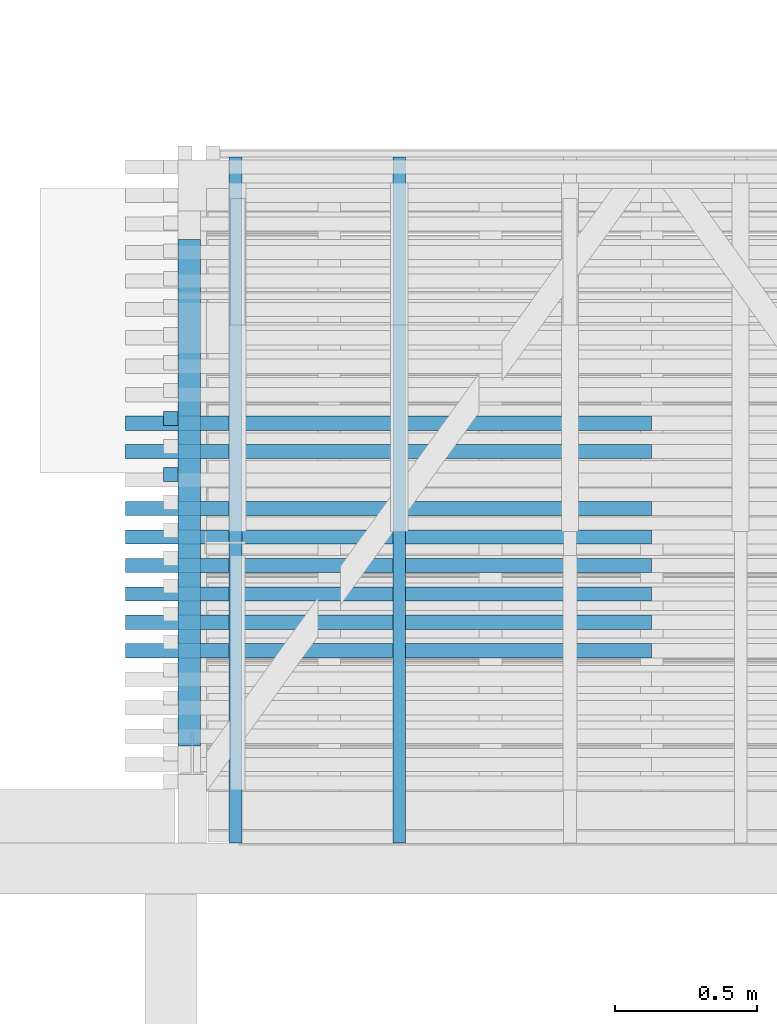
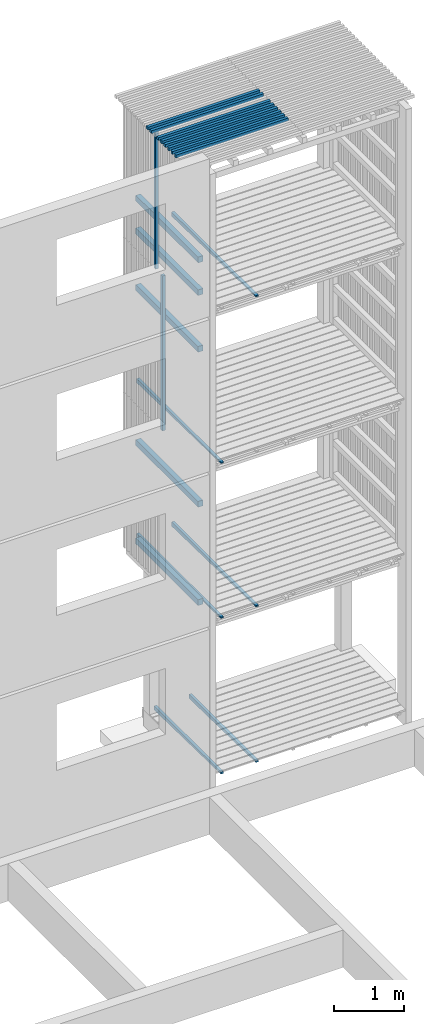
# One storey, part 115 of 182: 21 beams.
"""IFC2X3 building model written with IfcOpenShell, lengths in metres."""

from ifc_helpers import new_model, si_unit, frame, origin, place, context, project, spatial, faceted_brep, element, save


model = new_model("IFC2X3")

# Units and contexts
model_context = context("Model", 3, precision=1e-06, world=origin())
ifc_project = project(units=[si_unit("LENGTHUNIT", "METRE"), si_unit("PLANEANGLEUNIT", "RADIAN")], contexts=[model_context])

# Site, building, storey
site = spatial("IfcSite", under=ifc_project, CompositionType="ELEMENT")
building = spatial("IfcBuilding", under=site, CompositionType="ELEMENT")
storey = spatial("IfcBuildingStorey", under=building, Name="vs", CompositionType="ELEMENT", Elevation=-0.85)

# Beams
placement = place(None, origin())
beam_1_placement = place(placement, frame((53.22749999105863, 4.870077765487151, 5.384400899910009), z_axis=(0.0, 0.0, 1.0), x_axis=(0.0, 1.0, 0.0)))
element("IfcBeam", 1, at=beam_1_placement, inside=storey, Name="Calage", context=model_context, shape_type="Brep", body=[
    faceted_brep([(2.41000000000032, -0.022499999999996, -0.035599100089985), (0.0, -0.022499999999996, 0.012600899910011), (0.0, 0.022500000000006, 0.012600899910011), (2.41000000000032, 0.022500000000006, -0.035599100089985), (0.0, 0.022500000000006, 0.035599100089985), (0.0, 0.022500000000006, 0.012600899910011), (0.0, -0.022499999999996, 0.012600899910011), (0.0, -0.022499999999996, 0.035599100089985), (2.41000000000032, 0.022500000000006, -0.035599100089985), (0.0, 0.022500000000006, 0.012600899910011), (0.0, 0.022500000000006, 0.035599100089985), (2.41000000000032, 0.022500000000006, 0.035599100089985), (2.41000000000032, -0.022499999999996, 0.035599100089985), (0.0, -0.022499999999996, 0.035599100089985), (0.0, -0.022499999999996, 0.012600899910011), (2.41000000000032, -0.022499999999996, -0.035599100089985), (2.41000000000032, 0.022500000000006, 0.035599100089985), (0.0, 0.022500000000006, 0.035599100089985), (0.0, -0.022499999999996, 0.035599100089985), (2.41000000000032, -0.022499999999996, 0.035599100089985), (2.41000000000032, 0.022500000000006, -0.035599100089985), (2.41000000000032, 0.022500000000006, 0.035599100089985), (2.41000000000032, -0.022499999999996, 0.035599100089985), (2.41000000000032, -0.022499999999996, -0.035599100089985)], [[[0, 1, 2, 3]], [[4, 5, 6, 7]], [[8, 9, 10, 11]], [[12, 13, 14, 15]], [[16, 17, 18, 19]], [[20, 21, 22, 23]]]),
])
beam_2_placement = place(placement, frame((54.689999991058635, 5.945077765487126, 10.47999999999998), z_axis=(0.0, 0.0, 1.0), x_axis=(-1.0, -2e-15, 0.0)))
element("IfcBeam", 2, at=beam_2_placement, inside=storey, Name="Bardage", context=model_context, shape_type="Brep", body=[
    faceted_brep([(1.850000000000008, -0.025000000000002, -0.024999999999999), (1.850000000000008, -0.025000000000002, 0.025000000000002), (-1e-15, -0.024999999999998, 0.025000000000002), (-1e-15, -0.024999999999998, -0.024999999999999), (1.850000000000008, -0.025000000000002, 0.025000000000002), (1.850000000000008, -0.025000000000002, -0.024999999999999), (1.850000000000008, 0.024999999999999, -0.024999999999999), (1.850000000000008, 0.024999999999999, 0.025000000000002), (1.850000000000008, 0.024999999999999, -0.024999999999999), (1.850000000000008, -0.025000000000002, -0.024999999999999), (-1e-15, -0.024999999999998, -0.024999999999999), (0.0, 0.025000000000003, -0.024999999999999), (1.850000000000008, 0.024999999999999, 0.025000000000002), (1.850000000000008, 0.024999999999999, -0.024999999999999), (0.0, 0.025000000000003, -0.024999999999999), (0.0, 0.025000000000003, 0.025000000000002), (-1e-15, -0.024999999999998, 0.025000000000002), (1.850000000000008, -0.025000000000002, 0.025000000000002), (1.850000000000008, 0.024999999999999, 0.025000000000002), (0.0, 0.025000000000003, 0.025000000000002), (-1e-15, -0.024999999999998, -0.024999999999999), (-1e-15, -0.024999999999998, 0.025000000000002), (0.0, 0.025000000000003, 0.025000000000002), (0.0, 0.025000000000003, -0.024999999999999)], [[[0, 1, 2, 3]], [[4, 5, 6, 7]], [[8, 9, 10, 11]], [[12, 13, 14, 15]], [[16, 17, 18, 19]], [[20, 21, 22, 23]]]),
])
beam_3_placement = place(placement, frame((53.80299999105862, 4.870077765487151, -0.015599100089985), z_axis=(0.0, 0.0, 1.0), x_axis=(0.0, 1.0, 0.0)))
element("IfcBeam", 3, at=beam_3_placement, inside=storey, Name="Calage", context=model_context, shape_type="Brep", body=[
    faceted_brep([(0.0, 0.022499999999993, 0.002600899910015), (1.91000000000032, 0.022499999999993, -0.035599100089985), (1.91000000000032, -0.022500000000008, -0.035599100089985), (0.0, -0.022500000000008, 0.002600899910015), (0.0, -0.022500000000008, 0.035599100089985), (0.0, 0.022499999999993, 0.035599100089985), (0.0, 0.022499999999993, 0.002600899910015), (0.0, -0.022500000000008, 0.002600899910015), (0.0, 0.022499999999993, 0.035599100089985), (0.0, -0.022500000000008, 0.035599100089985), (1.91000000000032, -0.022500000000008, 0.035599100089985), (1.91000000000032, 0.022499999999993, 0.035599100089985), (0.0, 0.022499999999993, 0.002600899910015), (0.0, 0.022499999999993, 0.035599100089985), (1.91000000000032, 0.022499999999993, 0.035599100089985), (1.91000000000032, 0.022499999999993, -0.035599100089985), (1.91000000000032, 0.022499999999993, -0.035599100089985), (1.91000000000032, 0.022499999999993, 0.035599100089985), (1.91000000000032, -0.022500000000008, 0.035599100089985), (1.91000000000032, -0.022500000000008, -0.035599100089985), (1.91000000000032, -0.022500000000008, -0.035599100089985), (1.91000000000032, -0.022500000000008, 0.035599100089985), (0.0, -0.022500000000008, 0.035599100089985), (0.0, -0.022500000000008, 0.002600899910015)], [[[0, 1, 2, 3]], [[4, 5, 6, 7]], [[8, 9, 10, 11]], [[12, 13, 14, 15]], [[16, 17, 18, 19]], [[20, 21, 22, 23]]]),
])
beam_4_placement = place(placement, frame((53.80299999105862, 4.870077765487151, 2.684400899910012), z_axis=(0.0, 0.0, 1.0), x_axis=(0.0, 1.0, 0.0)))
element("IfcBeam", 4, at=beam_4_placement, inside=storey, Name="Calage", context=model_context, shape_type="Brep", body=[
    faceted_brep([(2.41000000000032, -0.022500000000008, -0.035599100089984), (0.0, -0.022500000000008, 0.012600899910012), (0.0, 0.022499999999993, 0.012600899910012), (2.41000000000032, 0.022499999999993, -0.035599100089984), (0.0, 0.022499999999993, 0.035599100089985), (0.0, 0.022499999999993, 0.012600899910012), (0.0, -0.022500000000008, 0.012600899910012), (0.0, -0.022500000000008, 0.035599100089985), (2.41000000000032, 0.022499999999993, -0.035599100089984), (0.0, 0.022499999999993, 0.012600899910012), (0.0, 0.022499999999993, 0.035599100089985), (2.41000000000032, 0.022499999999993, 0.035599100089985), (2.41000000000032, -0.022500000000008, 0.035599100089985), (0.0, -0.022500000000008, 0.035599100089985), (0.0, -0.022500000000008, 0.012600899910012), (2.41000000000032, -0.022500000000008, -0.035599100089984), (2.41000000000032, 0.022499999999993, 0.035599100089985), (0.0, 0.022499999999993, 0.035599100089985), (0.0, -0.022500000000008, 0.035599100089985), (2.41000000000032, -0.022500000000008, 0.035599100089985), (2.41000000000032, 0.022499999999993, -0.035599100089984), (2.41000000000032, 0.022499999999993, 0.035599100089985), (2.41000000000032, -0.022500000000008, 0.035599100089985), (2.41000000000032, -0.022500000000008, -0.035599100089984)], [[[0, 1, 2, 3]], [[4, 5, 6, 7]], [[8, 9, 10, 11]], [[12, 13, 14, 15]], [[16, 17, 18, 19]], [[20, 21, 22, 23]]]),
])
beam_5_placement = place(placement, frame((54.689999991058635, 5.545077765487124, 10.47999999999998), z_axis=(0.0, 0.0, 1.0), x_axis=(-1.0, 0.0, 0.0)))
element("IfcBeam", 5, at=beam_5_placement, inside=storey, Name="Bardage", context=model_context, shape_type="Brep", body=[
    faceted_brep([(1.850000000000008, -0.024999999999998, -0.024999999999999), (1.850000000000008, -0.024999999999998, 0.025000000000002), (-1e-15, -0.025000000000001, 0.025000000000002), (-1e-15, -0.025000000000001, -0.024999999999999), (1.850000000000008, -0.024999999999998, 0.025000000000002), (1.850000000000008, -0.024999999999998, -0.024999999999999), (1.850000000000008, 0.024999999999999, -0.024999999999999), (1.850000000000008, 0.024999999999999, 0.025000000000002), (1.850000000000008, 0.024999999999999, -0.024999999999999), (1.850000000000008, -0.024999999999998, -0.024999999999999), (-1e-15, -0.025000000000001, -0.024999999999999), (-1e-15, 0.024999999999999, -0.024999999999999), (1.850000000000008, 0.024999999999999, 0.025000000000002), (1.850000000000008, 0.024999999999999, -0.024999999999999), (-1e-15, 0.024999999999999, -0.024999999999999), (-1e-15, 0.024999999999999, 0.025000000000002), (-1e-15, -0.025000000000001, 0.025000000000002), (1.850000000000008, -0.024999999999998, 0.025000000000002), (1.850000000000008, 0.024999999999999, 0.025000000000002), (-1e-15, 0.024999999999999, 0.025000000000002), (-1e-15, -0.025000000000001, -0.024999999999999), (-1e-15, -0.025000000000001, 0.025000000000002), (-1e-15, 0.024999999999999, 0.025000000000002), (-1e-15, 0.024999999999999, -0.024999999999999)], [[[0, 1, 2, 3]], [[4, 5, 6, 7]], [[8, 9, 10, 11]], [[12, 13, 14, 15]], [[16, 17, 18, 19]], [[20, 21, 22, 23]]]),
])
beam_6_placement = place(placement, frame((53.22749999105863, 4.870077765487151, 2.684400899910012), z_axis=(0.0, 0.0, 1.0), x_axis=(0.0, 1.0, 0.0)))
element("IfcBeam", 6, at=beam_6_placement, inside=storey, Name="Calage", context=model_context, shape_type="Brep", body=[
    faceted_brep([(2.41000000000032, -0.022499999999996, -0.035599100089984), (0.0, -0.022499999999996, 0.012600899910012), (0.0, 0.022500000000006, 0.012600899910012), (2.41000000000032, 0.022500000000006, -0.035599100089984), (0.0, 0.022500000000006, 0.035599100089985), (0.0, 0.022500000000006, 0.012600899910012), (0.0, -0.022499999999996, 0.012600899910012), (0.0, -0.022499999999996, 0.035599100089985), (2.41000000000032, 0.022500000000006, -0.035599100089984), (0.0, 0.022500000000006, 0.012600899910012), (0.0, 0.022500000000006, 0.035599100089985), (2.41000000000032, 0.022500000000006, 0.035599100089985), (2.41000000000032, -0.022499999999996, 0.035599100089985), (0.0, -0.022499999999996, 0.035599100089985), (0.0, -0.022499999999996, 0.012600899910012), (2.41000000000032, -0.022499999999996, -0.035599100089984), (2.41000000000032, 0.022500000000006, 0.035599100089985), (0.0, 0.022500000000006, 0.035599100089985), (0.0, -0.022499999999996, 0.035599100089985), (2.41000000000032, -0.022499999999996, 0.035599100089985), (2.41000000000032, 0.022500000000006, -0.035599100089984), (2.41000000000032, 0.022500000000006, 0.035599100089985), (2.41000000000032, -0.022499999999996, 0.035599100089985), (2.41000000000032, -0.022499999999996, -0.035599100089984)], [[[0, 1, 2, 3]], [[4, 5, 6, 7]], [[8, 9, 10, 11]], [[12, 13, 14, 15]], [[16, 17, 18, 19]], [[20, 21, 22, 23]]]),
])
beam_7_placement = place(placement, frame((54.689999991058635, 6.345077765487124, 10.47999999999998), z_axis=(0.0, 0.0, 1.0), x_axis=(-1.0, 0.0, 0.0)))
element("IfcBeam", 7, at=beam_7_placement, inside=storey, Name="Bardage", context=model_context, shape_type="Brep", body=[
    faceted_brep([(1.850000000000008, -0.025000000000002, -0.024999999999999), (1.850000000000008, -0.025000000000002, 0.025000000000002), (-1e-15, -0.025000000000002, 0.025000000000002), (-1e-15, -0.025000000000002, -0.024999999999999), (1.850000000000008, -0.025000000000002, 0.025000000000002), (1.850000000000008, -0.025000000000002, -0.024999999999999), (1.850000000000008, 0.025000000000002, -0.024999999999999), (1.850000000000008, 0.025000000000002, 0.025000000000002), (1.850000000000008, 0.025000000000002, -0.024999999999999), (1.850000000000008, -0.025000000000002, -0.024999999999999), (-1e-15, -0.025000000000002, -0.024999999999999), (-1e-15, 0.024999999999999, -0.024999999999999), (1.850000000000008, 0.025000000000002, 0.025000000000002), (1.850000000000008, 0.025000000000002, -0.024999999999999), (-1e-15, 0.024999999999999, -0.024999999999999), (-1e-15, 0.024999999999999, 0.025000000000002), (-1e-15, -0.025000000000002, 0.025000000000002), (1.850000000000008, -0.025000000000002, 0.025000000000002), (1.850000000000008, 0.025000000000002, 0.025000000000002), (-1e-15, 0.024999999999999, 0.025000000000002), (-1e-15, -0.025000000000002, -0.024999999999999), (-1e-15, -0.025000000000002, 0.025000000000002), (-1e-15, 0.024999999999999, 0.025000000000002), (-1e-15, 0.024999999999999, -0.024999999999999)], [[[0, 1, 2, 3]], [[4, 5, 6, 7]], [[8, 9, 10, 11]], [[12, 13, 14, 15]], [[16, 17, 18, 19]], [[20, 21, 22, 23]]]),
])
beam_8_placement = place(placement, frame((53.80299999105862, 4.870077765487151, 8.084400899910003), z_axis=(0.0, 0.0, 1.0), x_axis=(0.0, 1.0, 0.0)))
element("IfcBeam", 8, at=beam_8_placement, inside=storey, Name="Calage", context=model_context, shape_type="Brep", body=[
    faceted_brep([(2.41000000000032, -0.022500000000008, -0.035599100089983), (0.0, -0.022500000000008, 0.012600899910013), (0.0, 0.022499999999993, 0.012600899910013), (2.41000000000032, 0.022499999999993, -0.035599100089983), (0.0, 0.022499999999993, 0.035599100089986), (0.0, 0.022499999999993, 0.012600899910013), (0.0, -0.022500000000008, 0.012600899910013), (0.0, -0.022500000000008, 0.035599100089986), (2.41000000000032, 0.022499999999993, -0.035599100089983), (0.0, 0.022499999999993, 0.012600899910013), (0.0, 0.022499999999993, 0.035599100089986), (2.41000000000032, 0.022499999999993, 0.035599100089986), (2.41000000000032, -0.022500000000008, 0.035599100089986), (0.0, -0.022500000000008, 0.035599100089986), (0.0, -0.022500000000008, 0.012600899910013), (2.41000000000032, -0.022500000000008, -0.035599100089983), (2.41000000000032, 0.022499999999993, 0.035599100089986), (0.0, 0.022499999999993, 0.035599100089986), (0.0, -0.022500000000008, 0.035599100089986), (2.41000000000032, -0.022500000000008, 0.035599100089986), (2.41000000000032, 0.022499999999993, -0.035599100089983), (2.41000000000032, 0.022499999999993, 0.035599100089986), (2.41000000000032, -0.022500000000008, 0.035599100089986), (2.41000000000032, -0.022500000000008, -0.035599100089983)], [[[0, 1, 2, 3]], [[4, 5, 6, 7]], [[8, 9, 10, 11]], [[12, 13, 14, 15]], [[16, 17, 18, 19]], [[20, 21, 22, 23]]]),
])
beam_9_placement = place(placement, frame((53.22749999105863, 4.870077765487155, -0.015599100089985), z_axis=(0.0, 0.0, 1.0), x_axis=(0.0, 1.0, 0.0)))
element("IfcBeam", 9, at=beam_9_placement, inside=storey, Name="Calage", context=model_context, shape_type="Brep", body=[
    faceted_brep([(0.0, 0.022500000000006, 0.002600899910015), (1.910000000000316, 0.022500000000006, -0.035599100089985), (1.910000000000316, -0.022499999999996, -0.035599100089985), (0.0, -0.022499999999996, 0.002600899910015), (0.0, -0.022499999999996, 0.035599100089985), (0.0, 0.022500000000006, 0.035599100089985), (0.0, 0.022500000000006, 0.002600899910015), (0.0, -0.022499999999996, 0.002600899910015), (0.0, 0.022500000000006, 0.035599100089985), (0.0, -0.022499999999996, 0.035599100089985), (1.910000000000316, -0.022499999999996, 0.035599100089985), (1.910000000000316, 0.022500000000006, 0.035599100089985), (0.0, 0.022500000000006, 0.002600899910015), (0.0, 0.022500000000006, 0.035599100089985), (1.910000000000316, 0.022500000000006, 0.035599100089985), (1.910000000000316, 0.022500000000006, -0.035599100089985), (1.910000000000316, 0.022500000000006, -0.035599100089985), (1.910000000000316, 0.022500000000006, 0.035599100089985), (1.910000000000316, -0.022499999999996, 0.035599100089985), (1.910000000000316, -0.022499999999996, -0.035599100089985), (1.910000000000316, -0.022499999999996, -0.035599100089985), (1.910000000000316, -0.022499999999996, 0.035599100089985), (0.0, -0.022499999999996, 0.035599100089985), (0.0, -0.022499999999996, 0.002600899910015)], [[[0, 1, 2, 3]], [[4, 5, 6, 7]], [[8, 9, 10, 11]], [[12, 13, 14, 15]], [[16, 17, 18, 19]], [[20, 21, 22, 23]]]),
])
beam_10_placement = place(placement, frame((54.689999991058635, 6.245077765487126, 10.47999999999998), z_axis=(0.0, 0.0, 1.0), x_axis=(-1.0, -2e-15, 0.0)))
element("IfcBeam", 10, at=beam_10_placement, inside=storey, Name="Bardage", context=model_context, shape_type="Brep", body=[
    faceted_brep([(1.850000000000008, -0.025000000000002, -0.024999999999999), (1.850000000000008, -0.025000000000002, 0.025000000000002), (-1e-15, -0.024999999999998, 0.025000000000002), (-1e-15, -0.024999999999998, -0.024999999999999), (1.850000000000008, -0.025000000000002, 0.025000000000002), (1.850000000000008, -0.025000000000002, -0.024999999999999), (1.850000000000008, 0.024999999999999, -0.024999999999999), (1.850000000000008, 0.024999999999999, 0.025000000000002), (1.850000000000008, 0.024999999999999, -0.024999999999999), (1.850000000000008, -0.025000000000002, -0.024999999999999), (-1e-15, -0.024999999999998, -0.024999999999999), (-1e-15, 0.025000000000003, -0.024999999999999), (1.850000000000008, 0.024999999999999, 0.025000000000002), (1.850000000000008, 0.024999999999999, -0.024999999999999), (-1e-15, 0.025000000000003, -0.024999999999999), (-1e-15, 0.025000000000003, 0.025000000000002), (-1e-15, -0.024999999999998, 0.025000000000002), (1.850000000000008, -0.025000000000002, 0.025000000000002), (1.850000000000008, 0.024999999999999, 0.025000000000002), (-1e-15, 0.025000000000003, 0.025000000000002), (-1e-15, -0.024999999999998, -0.024999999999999), (-1e-15, -0.024999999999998, 0.025000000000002), (-1e-15, 0.025000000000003, 0.025000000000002), (-1e-15, 0.025000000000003, -0.024999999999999)], [[[0, 1, 2, 3]], [[4, 5, 6, 7]], [[8, 9, 10, 11]], [[12, 13, 14, 15]], [[16, 17, 18, 19]], [[20, 21, 22, 23]]]),
])
beam_11_placement = place(placement, frame((54.689999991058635, 5.645077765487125, 10.47999999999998), z_axis=(0.0, 0.0, 1.0), x_axis=(-1.0, 0.0, 0.0)))
element("IfcBeam", 11, at=beam_11_placement, inside=storey, Name="Bardage", context=model_context, shape_type="Brep", body=[
    faceted_brep([(1.850000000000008, -0.024999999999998, -0.024999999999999), (1.850000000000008, -0.024999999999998, 0.025000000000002), (-1e-15, -0.024999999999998, 0.025000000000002), (-1e-15, -0.024999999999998, -0.024999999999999), (1.850000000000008, -0.024999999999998, 0.025000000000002), (1.850000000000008, -0.024999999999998, -0.024999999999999), (1.850000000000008, 0.024999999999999, -0.024999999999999), (1.850000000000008, 0.024999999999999, 0.025000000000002), (1.850000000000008, 0.024999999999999, -0.024999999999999), (1.850000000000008, -0.024999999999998, -0.024999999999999), (-1e-15, -0.024999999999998, -0.024999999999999), (-1e-15, 0.024999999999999, -0.024999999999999), (1.850000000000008, 0.024999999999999, 0.025000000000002), (1.850000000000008, 0.024999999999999, -0.024999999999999), (-1e-15, 0.024999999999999, -0.024999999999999), (-1e-15, 0.024999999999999, 0.025000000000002), (-1e-15, -0.024999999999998, 0.025000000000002), (1.850000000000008, -0.024999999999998, 0.025000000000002), (1.850000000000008, 0.024999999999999, 0.025000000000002), (-1e-15, 0.024999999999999, 0.025000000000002), (-1e-15, -0.024999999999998, -0.024999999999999), (-1e-15, -0.024999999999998, 0.025000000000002), (-1e-15, 0.024999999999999, 0.025000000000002), (-1e-15, 0.024999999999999, -0.024999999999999)], [[[0, 1, 2, 3]], [[4, 5, 6, 7]], [[8, 9, 10, 11]], [[12, 13, 14, 15]], [[16, 17, 18, 19]], [[20, 21, 22, 23]]]),
])
beam_12_placement = place(placement, frame((54.689999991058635, 5.845077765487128, 10.47999999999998), z_axis=(0.0, 0.0, 1.0), x_axis=(-1.0, -2e-15, 0.0)))
element("IfcBeam", 12, at=beam_12_placement, inside=storey, Name="Bardage", context=model_context, shape_type="Brep", body=[
    faceted_brep([(1.850000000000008, -0.025000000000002, -0.024999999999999), (1.850000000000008, -0.025000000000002, 0.025000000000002), (-1e-15, -0.024999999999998, 0.025000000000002), (-1e-15, -0.024999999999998, -0.024999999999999), (1.850000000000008, -0.025000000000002, 0.025000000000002), (1.850000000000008, -0.025000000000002, -0.024999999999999), (1.850000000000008, 0.025000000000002, -0.024999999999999), (1.850000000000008, 0.025000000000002, 0.025000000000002), (1.850000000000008, 0.025000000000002, -0.024999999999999), (1.850000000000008, -0.025000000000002, -0.024999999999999), (-1e-15, -0.024999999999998, -0.024999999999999), (-1e-15, 0.025000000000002, -0.024999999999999), (1.850000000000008, 0.025000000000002, 0.025000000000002), (1.850000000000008, 0.025000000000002, -0.024999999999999), (-1e-15, 0.025000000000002, -0.024999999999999), (-1e-15, 0.025000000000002, 0.025000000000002), (-1e-15, -0.024999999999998, 0.025000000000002), (1.850000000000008, -0.025000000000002, 0.025000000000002), (1.850000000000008, 0.025000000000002, 0.025000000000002), (-1e-15, 0.025000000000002, 0.025000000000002), (-1e-15, -0.024999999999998, -0.024999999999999), (-1e-15, -0.024999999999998, 0.025000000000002), (-1e-15, 0.025000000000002, 0.025000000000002), (-1e-15, 0.025000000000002, -0.024999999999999)], [[[0, 1, 2, 3]], [[4, 5, 6, 7]], [[8, 9, 10, 11]], [[12, 13, 14, 15]], [[16, 17, 18, 19]], [[20, 21, 22, 23]]]),
])
beam_13_placement = place(placement, frame((54.689999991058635, 5.745077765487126, 10.47999999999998), z_axis=(0.0, 0.0, 1.0), x_axis=(-1.0, 0.0, 0.0)))
element("IfcBeam", 13, at=beam_13_placement, inside=storey, Name="Bardage", context=model_context, shape_type="Brep", body=[
    faceted_brep([(1.850000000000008, -0.024999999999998, -0.024999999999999), (1.850000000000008, -0.024999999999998, 0.025000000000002), (-1e-15, -0.024999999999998, 0.025000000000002), (-1e-15, -0.024999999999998, -0.024999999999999), (1.850000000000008, -0.024999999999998, 0.025000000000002), (1.850000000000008, -0.024999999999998, -0.024999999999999), (1.850000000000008, 0.025000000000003, -0.024999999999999), (1.850000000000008, 0.025000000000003, 0.025000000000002), (1.850000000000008, 0.025000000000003, -0.024999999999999), (1.850000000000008, -0.024999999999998, -0.024999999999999), (-1e-15, -0.024999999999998, -0.024999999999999), (-1e-15, 0.024999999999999, -0.024999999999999), (1.850000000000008, 0.025000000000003, 0.025000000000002), (1.850000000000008, 0.025000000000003, -0.024999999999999), (-1e-15, 0.024999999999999, -0.024999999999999), (-1e-15, 0.024999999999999, 0.025000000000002), (-1e-15, -0.024999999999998, 0.025000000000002), (1.850000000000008, -0.024999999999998, 0.025000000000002), (1.850000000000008, 0.025000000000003, 0.025000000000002), (-1e-15, 0.024999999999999, 0.025000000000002), (-1e-15, -0.024999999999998, -0.024999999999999), (-1e-15, -0.024999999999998, 0.025000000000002), (-1e-15, 0.024999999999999, 0.025000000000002), (-1e-15, 0.024999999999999, -0.024999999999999)], [[[0, 1, 2, 3]], [[4, 5, 6, 7]], [[8, 9, 10, 11]], [[12, 13, 14, 15]], [[16, 17, 18, 19]], [[20, 21, 22, 23]]]),
])
beam_14_placement = place(placement, frame((54.689999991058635, 6.045077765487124, 10.47999999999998), z_axis=(0.0, 0.0, 1.0), x_axis=(-1.0, 0.0, 0.0)))
element("IfcBeam", 14, at=beam_14_placement, inside=storey, Name="Bardage", context=model_context, shape_type="Brep", body=[
    faceted_brep([(1.850000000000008, -0.024999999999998, -0.024999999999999), (1.850000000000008, -0.024999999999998, 0.025000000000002), (-1e-15, -0.025000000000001, 0.025000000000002), (-1e-15, -0.025000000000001, -0.024999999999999), (1.850000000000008, -0.024999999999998, 0.025000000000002), (1.850000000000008, -0.024999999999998, -0.024999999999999), (1.850000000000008, 0.024999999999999, -0.024999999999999), (1.850000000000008, 0.024999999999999, 0.025000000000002), (1.850000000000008, 0.024999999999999, -0.024999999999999), (1.850000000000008, -0.024999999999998, -0.024999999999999), (-1e-15, -0.025000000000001, -0.024999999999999), (-1e-15, 0.024999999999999, -0.024999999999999), (1.850000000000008, 0.024999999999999, 0.025000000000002), (1.850000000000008, 0.024999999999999, -0.024999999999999), (-1e-15, 0.024999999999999, -0.024999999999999), (-1e-15, 0.024999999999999, 0.025000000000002), (-1e-15, -0.025000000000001, 0.025000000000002), (1.850000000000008, -0.024999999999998, 0.025000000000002), (1.850000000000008, 0.024999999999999, 0.025000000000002), (-1e-15, 0.024999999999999, 0.025000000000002), (-1e-15, -0.025000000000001, -0.024999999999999), (-1e-15, -0.025000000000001, 0.025000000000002), (-1e-15, 0.024999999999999, 0.025000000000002), (-1e-15, 0.024999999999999, -0.024999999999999)], [[[0, 1, 2, 3]], [[4, 5, 6, 7]], [[8, 9, 10, 11]], [[12, 13, 14, 15]], [[16, 17, 18, 19]], [[20, 21, 22, 23]]]),
])
beam_15_placement = place(placement, frame((52.999999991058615, 6.361441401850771, 7.974999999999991), z_axis=(1.0, 0.0, 0.0), x_axis=(0.0, 0.0, 1.0)))
element("IfcBeam", 15, at=beam_15_placement, inside=storey, Name="Bardage", context=model_context, shape_type="Brep", body=[
    faceted_brep([(0.0, -0.024999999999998, 0.025000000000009), (0.0, 0.024999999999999, 0.025000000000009), (0.0, 0.024999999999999, -0.025000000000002), (0.0, -0.024999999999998, -0.025000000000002), (2.479999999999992, 0.024999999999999, -0.025000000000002), (2.479999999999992, 0.024999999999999, 0.025000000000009), (2.479999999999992, -0.024999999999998, 0.025000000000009), (2.479999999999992, -0.024999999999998, -0.025000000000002), (0.0, 0.024999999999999, 0.025000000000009), (0.0, -0.024999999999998, 0.025000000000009), (2.479999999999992, -0.024999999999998, 0.025000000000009), (2.479999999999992, 0.024999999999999, 0.025000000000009), (0.0, 0.024999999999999, -0.025000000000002), (0.0, 0.024999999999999, 0.025000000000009), (2.479999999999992, 0.024999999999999, 0.025000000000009), (2.479999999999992, 0.024999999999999, -0.025000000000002), (0.0, -0.024999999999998, -0.025000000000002), (0.0, 0.024999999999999, -0.025000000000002), (2.479999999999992, 0.024999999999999, -0.025000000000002), (2.479999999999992, -0.024999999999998, -0.025000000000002), (2.479999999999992, -0.024999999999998, 0.025000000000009), (0.0, -0.024999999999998, 0.025000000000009), (0.0, -0.024999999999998, -0.025000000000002), (2.479999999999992, -0.024999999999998, -0.025000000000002)], [[[0, 1, 2, 3]], [[4, 5, 6, 7]], [[8, 9, 10, 11]], [[12, 13, 14, 15]], [[16, 17, 18, 19]], [[20, 21, 22, 23]]]),
])
beam_16_placement = place(placement, frame((53.06499999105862, 5.210077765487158, 7.24374999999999), z_axis=(0.0, 0.0, 1.0), x_axis=(0.0, 1.0, 0.0)))
element("IfcBeam", 16, at=beam_16_placement, inside=storey, Name="Support bardage", context=model_context, shape_type="Brep", body=[
    faceted_brep([(1.779999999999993, 0.039999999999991, -0.049999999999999), (1.779999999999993, 0.039999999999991, 0.050000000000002), (1.779999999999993, -0.040000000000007, 0.050000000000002), (1.779999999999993, -0.040000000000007, -0.049999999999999), (1.779999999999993, -0.040000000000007, 0.050000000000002), (1.779999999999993, 0.039999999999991, 0.050000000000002), (-4e-15, 0.039999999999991, 0.050000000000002), (-4e-15, -0.040000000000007, 0.050000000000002), (-4e-15, 0.039999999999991, 0.050000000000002), (1.779999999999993, 0.039999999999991, 0.050000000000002), (1.779999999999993, 0.039999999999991, -0.049999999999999), (-4e-15, 0.039999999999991, -0.049999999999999), (1.779999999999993, -0.040000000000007, -0.049999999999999), (1.779999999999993, -0.040000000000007, 0.050000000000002), (-4e-15, -0.040000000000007, 0.050000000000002), (-4e-15, -0.040000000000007, -0.049999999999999), (-4e-15, 0.039999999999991, -0.049999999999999), (1.779999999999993, 0.039999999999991, -0.049999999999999), (1.779999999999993, -0.040000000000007, -0.049999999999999), (-4e-15, -0.040000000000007, -0.049999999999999), (-4e-15, 0.039999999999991, 0.050000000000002), (-4e-15, 0.039999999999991, -0.049999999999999), (-4e-15, -0.040000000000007, -0.049999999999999), (-4e-15, -0.040000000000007, 0.050000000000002)], [[[0, 1, 2, 3]], [[4, 5, 6, 7]], [[8, 9, 10, 11]], [[12, 13, 14, 15]], [[16, 17, 18, 19]], [[20, 21, 22, 23]]]),
])
beam_17_placement = place(placement, frame((53.06499999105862, 5.210077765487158, 2.830000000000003), z_axis=(0.0, 0.0, 1.0), x_axis=(0.0, 1.0, 0.0)))
element("IfcBeam", 17, at=beam_17_placement, inside=storey, Name="Support bardage", context=model_context, shape_type="Brep", body=[
    faceted_brep([(1.779999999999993, 0.039999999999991, -0.050000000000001), (1.779999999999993, 0.039999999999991, 0.05), (1.779999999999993, -0.040000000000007, 0.05), (1.779999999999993, -0.040000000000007, -0.050000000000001), (1.779999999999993, -0.040000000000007, 0.05), (1.779999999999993, 0.039999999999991, 0.05), (-4e-15, 0.039999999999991, 0.05), (-4e-15, -0.040000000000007, 0.05), (-4e-15, 0.039999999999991, 0.05), (1.779999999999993, 0.039999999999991, 0.05), (1.779999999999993, 0.039999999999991, -0.050000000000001), (-4e-15, 0.039999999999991, -0.050000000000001), (1.779999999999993, -0.040000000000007, -0.050000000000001), (1.779999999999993, -0.040000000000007, 0.05), (-4e-15, -0.040000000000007, 0.05), (-4e-15, -0.040000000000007, -0.050000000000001), (-4e-15, 0.039999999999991, -0.050000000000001), (1.779999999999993, 0.039999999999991, -0.050000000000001), (1.779999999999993, -0.040000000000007, -0.050000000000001), (-4e-15, -0.040000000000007, -0.050000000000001), (-4e-15, 0.039999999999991, 0.05), (-4e-15, 0.039999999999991, -0.050000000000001), (-4e-15, -0.040000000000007, -0.050000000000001), (-4e-15, -0.040000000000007, 0.05)], [[[0, 1, 2, 3]], [[4, 5, 6, 7]], [[8, 9, 10, 11]], [[12, 13, 14, 15]], [[16, 17, 18, 19]], [[20, 21, 22, 23]]]),
])
beam_18_placement = place(placement, frame((52.999999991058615, 6.165077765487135, 5.274999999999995), z_axis=(1.0, 0.0, 0.0), x_axis=(0.0, 1e-15, 1.0)))
element("IfcBeam", 18, at=beam_18_placement, inside=storey, Name="Bardage", context=model_context, shape_type="Brep", body=[
    faceted_brep([(2.699999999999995, 0.025000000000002, 0.025000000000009), (2.699999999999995, -0.025000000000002, 0.025000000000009), (2.699999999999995, -0.025000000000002, -0.025000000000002), (2.699999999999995, 0.025000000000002, -0.025000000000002), (1e-15, 0.024999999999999, 0.025000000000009), (2.699999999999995, 0.025000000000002, 0.025000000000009), (2.699999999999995, 0.025000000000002, -0.025000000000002), (1e-15, 0.024999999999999, -0.025000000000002), (1e-15, -0.025000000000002, 0.025000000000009), (1e-15, 0.024999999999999, 0.025000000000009), (1e-15, 0.024999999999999, -0.025000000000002), (1e-15, -0.025000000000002, -0.025000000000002), (1e-15, 0.024999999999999, 0.025000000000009), (1e-15, -0.025000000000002, 0.025000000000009), (2.699999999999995, -0.025000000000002, 0.025000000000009), (2.699999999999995, 0.025000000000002, 0.025000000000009), (1e-15, -0.025000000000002, 0.025000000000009), (1e-15, -0.025000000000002, -0.025000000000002), (2.699999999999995, -0.025000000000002, -0.025000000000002), (2.699999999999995, -0.025000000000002, 0.025000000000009), (1e-15, -0.025000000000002, -0.025000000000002), (1e-15, 0.024999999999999, -0.025000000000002), (2.699999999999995, 0.025000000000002, -0.025000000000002), (2.699999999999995, -0.025000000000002, -0.025000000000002)], [[[0, 1, 2, 3]], [[4, 5, 6, 7]], [[8, 9, 10, 11]], [[12, 13, 14, 15]], [[16, 17, 18, 19]], [[20, 21, 22, 23]]]),
])
beam_19_placement = place(placement, frame((53.06499999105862, 5.210077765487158, 8.229999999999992), z_axis=(0.0, 0.0, 1.0), x_axis=(0.0, 1.0, 0.0)))
element("IfcBeam", 19, at=beam_19_placement, inside=storey, Name="Support bardage", context=model_context, shape_type="Brep", body=[
    faceted_brep([(1.779999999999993, 0.039999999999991, -0.05), (1.779999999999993, 0.039999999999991, 0.050000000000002), (1.779999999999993, -0.040000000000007, 0.050000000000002), (1.779999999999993, -0.040000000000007, -0.05), (1.779999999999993, -0.040000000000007, 0.050000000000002), (1.779999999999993, 0.039999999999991, 0.050000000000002), (-4e-15, 0.039999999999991, 0.050000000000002), (-4e-15, -0.040000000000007, 0.050000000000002), (-4e-15, 0.039999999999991, 0.050000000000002), (1.779999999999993, 0.039999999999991, 0.050000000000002), (1.779999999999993, 0.039999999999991, -0.05), (-4e-15, 0.039999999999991, -0.05), (1.779999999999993, -0.040000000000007, -0.05), (1.779999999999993, -0.040000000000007, 0.050000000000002), (-4e-15, -0.040000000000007, 0.050000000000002), (-4e-15, -0.040000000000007, -0.05), (-4e-15, 0.039999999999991, -0.05), (1.779999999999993, 0.039999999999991, -0.05), (1.779999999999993, -0.040000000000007, -0.05), (-4e-15, -0.040000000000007, -0.05), (-4e-15, 0.039999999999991, 0.050000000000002), (-4e-15, 0.039999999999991, -0.05), (-4e-15, -0.040000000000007, -0.05), (-4e-15, -0.040000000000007, 0.050000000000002)], [[[0, 1, 2, 3]], [[4, 5, 6, 7]], [[8, 9, 10, 11]], [[12, 13, 14, 15]], [[16, 17, 18, 19]], [[20, 21, 22, 23]]]),
])
for number, where, z_axis, x_axis, name in (
    (20, (53.06499999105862, 5.210077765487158, 4.543749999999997), (0.0, 0.0, 1.0), (0.0, 1.0, 0.0), "Support bardage"),
    (21, (53.06499999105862, 5.210077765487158, 8.80124999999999), (0.0, 0.0, 1.0), (0.0, 1.0, 0.0), "Support bardage"),
):
    element("IfcBeam", number, at=place(placement, frame(where, z_axis=z_axis, x_axis=x_axis)), inside=storey, Name=name, context=model_context, shape_type="Brep", body=[
        faceted_brep([(1.779999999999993, 0.039999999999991, -0.050000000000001), (1.779999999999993, 0.039999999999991, 0.050000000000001), (1.779999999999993, -0.040000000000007, 0.050000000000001), (1.779999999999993, -0.040000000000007, -0.050000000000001), (1.779999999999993, -0.040000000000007, 0.050000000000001), (1.779999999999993, 0.039999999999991, 0.050000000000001), (-4e-15, 0.039999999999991, 0.050000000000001), (-4e-15, -0.040000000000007, 0.050000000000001), (-4e-15, 0.039999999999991, 0.050000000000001), (1.779999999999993, 0.039999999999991, 0.050000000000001), (1.779999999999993, 0.039999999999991, -0.050000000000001), (-4e-15, 0.039999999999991, -0.050000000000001), (1.779999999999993, -0.040000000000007, -0.050000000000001), (1.779999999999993, -0.040000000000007, 0.050000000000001), (-4e-15, -0.040000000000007, 0.050000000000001), (-4e-15, -0.040000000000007, -0.050000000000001), (-4e-15, 0.039999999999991, -0.050000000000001), (1.779999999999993, 0.039999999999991, -0.050000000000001), (1.779999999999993, -0.040000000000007, -0.050000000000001), (-4e-15, -0.040000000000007, -0.050000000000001), (-4e-15, 0.039999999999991, 0.050000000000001), (-4e-15, 0.039999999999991, -0.050000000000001), (-4e-15, -0.040000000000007, -0.050000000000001), (-4e-15, -0.040000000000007, 0.050000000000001)], [[[0, 1, 2, 3]], [[4, 5, 6, 7]], [[8, 9, 10, 11]], [[12, 13, 14, 15]], [[16, 17, 18, 19]], [[20, 21, 22, 23]]]),
    ])

save(model, "model.ifc")
